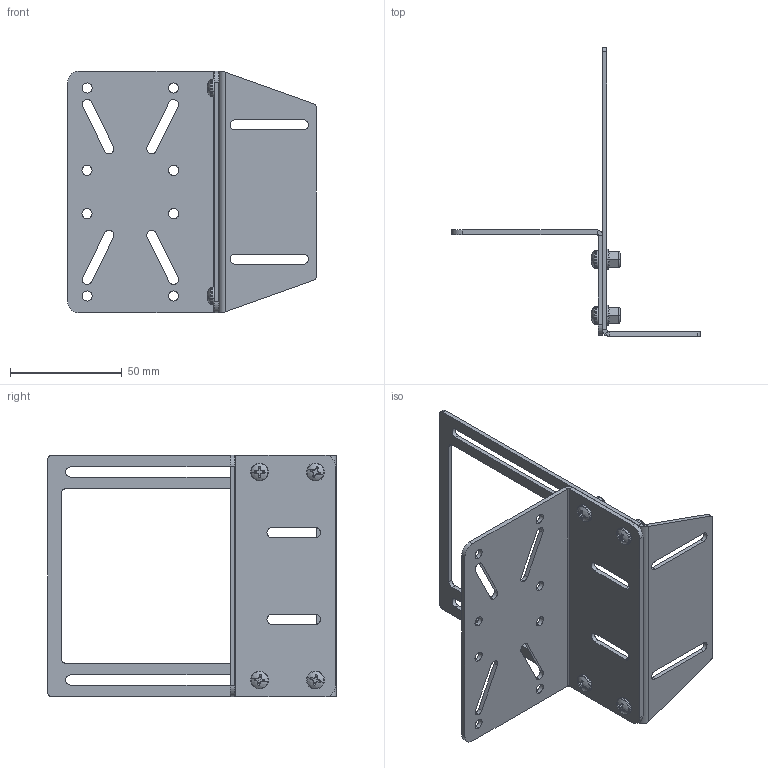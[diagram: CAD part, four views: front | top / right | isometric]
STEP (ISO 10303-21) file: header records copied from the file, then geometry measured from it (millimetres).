
FILE_DESCRIPTION (( 'STEP AP214' ), '1' );
FILE_NAME ('CB_DDL_ASM.STEP', '2016-04-15T18:31:43', ( '' ), ( '' ), 'SwSTEP 2.0', 'SolidWorks 2015', '' );
FILE_SCHEMA (( 'AUTOMOTIVE_DESIGN' ));
Length unit declared in the file: inch
Products named in the file (6): 90576A103_90576A103; 93475A230_93475A230; 95836A337_95836A337; CM_Universal Adapter_R2; DDL Mount; CB_DDL_ASM
Assembly tree (14 placements, depth 2):
  CB_DDL_ASM
    DDL Mount
    CM_Universal Adapter_R2
    95836A337_95836A337  x4
    93475A230_93475A230  x4
    90576A103_90576A103  x4
Bounding box: 111.15 x 129.08 x 108 mm (x, y, z)
Volume: 38279.6 mm3; surface area: 45657.8 mm2
Topology: 18 solids, 18 shells, 948 faces, 2428 edges, 1528 vertices
Faces by surface type: cylinder 500, cone 204, plane 180, torus 40, bspline 16, sphere 8
Entity records: 12339 total; most frequent: CARTESIAN_POINT 4359, ORIENTED_EDGE 1694, DIRECTION 1543, EDGE_CURVE 847, AXIS2_PLACEMENT_3D 600, VERTEX_POINT 538, EDGE_LOOP 379, VECTOR 343
